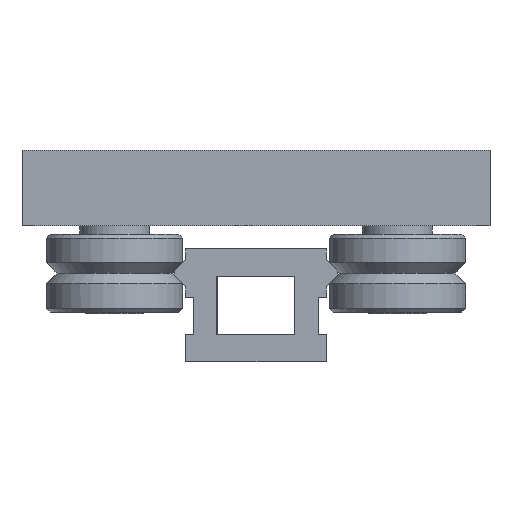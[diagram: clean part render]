
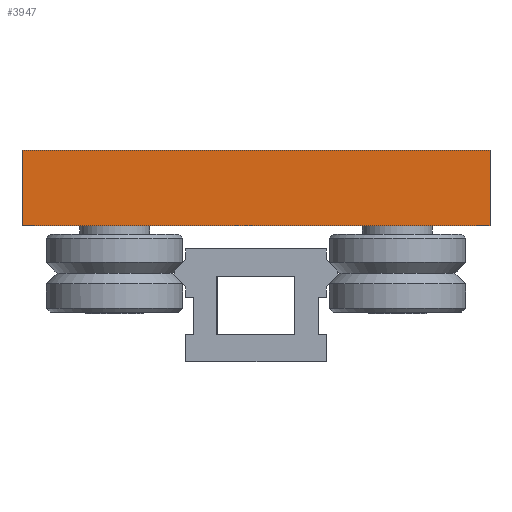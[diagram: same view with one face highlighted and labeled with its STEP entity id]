
A CAD part, left-side view. The second image highlights one B-rep face of the part: STEP entity #3947.
In plain terms, the highlighted planar face has unit normal (-1, 0, 0).
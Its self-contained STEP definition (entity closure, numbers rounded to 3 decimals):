
#3761=CARTESIAN_POINT('',(445.297,60.0,34.9));
#3762=VERTEX_POINT('',#3761);
#3769=CARTESIAN_POINT('',(445.297,60.0,54.3));
#3770=VERTEX_POINT('',#3769);
#3771=CARTESIAN_POINT('',(445.297,60.0,54.3));
#3772=DIRECTION('',(0.0,0.0,-1.0));
#3773=VECTOR('',#3772,19.4);
#3774=LINE('',#3771,#3773);
#3775=EDGE_CURVE('',#3770,#3762,#3774,.T.);
#3805=CARTESIAN_POINT('',(445.297,-60.0,34.9));
#3806=VERTEX_POINT('',#3805);
#3813=CARTESIAN_POINT('',(445.297,60.0,34.9));
#3814=DIRECTION('',(0.0,-1.0,0.0));
#3815=VECTOR('',#3814,120.0);
#3816=LINE('',#3813,#3815);
#3817=EDGE_CURVE('',#3762,#3806,#3816,.T.);
#3860=CARTESIAN_POINT('',(445.297,-60.0,54.3));
#3861=VERTEX_POINT('',#3860);
#3868=CARTESIAN_POINT('',(445.297,-60.0,34.9));
#3869=DIRECTION('',(0.0,0.0,1.0));
#3870=VECTOR('',#3869,19.4);
#3871=LINE('',#3868,#3870);
#3872=EDGE_CURVE('',#3806,#3861,#3871,.T.);
#3890=CARTESIAN_POINT('',(445.297,-60.0,54.3));
#3891=DIRECTION('',(0.0,1.0,0.0));
#3892=VECTOR('',#3891,120.0);
#3893=LINE('',#3890,#3892);
#3894=EDGE_CURVE('',#3861,#3770,#3893,.T.);
#3936=CARTESIAN_POINT('',(445.297,0.0,44.6));
#3937=DIRECTION('',(1.0,0.0,0.0));
#3938=DIRECTION('',(0.0,0.0,-1.0));
#3939=AXIS2_PLACEMENT_3D('',#3936,#3937,#3938);
#3940=PLANE('',#3939);
#3941=ORIENTED_EDGE('',*,*,#3894,.T.);
#3942=ORIENTED_EDGE('',*,*,#3775,.T.);
#3943=ORIENTED_EDGE('',*,*,#3817,.T.);
#3944=ORIENTED_EDGE('',*,*,#3872,.T.);
#3945=EDGE_LOOP('',(#3941,#3942,#3943,#3944));
#3946=FACE_OUTER_BOUND('',#3945,.T.);
#3947=ADVANCED_FACE('',(#3946),#3940,.F.);
